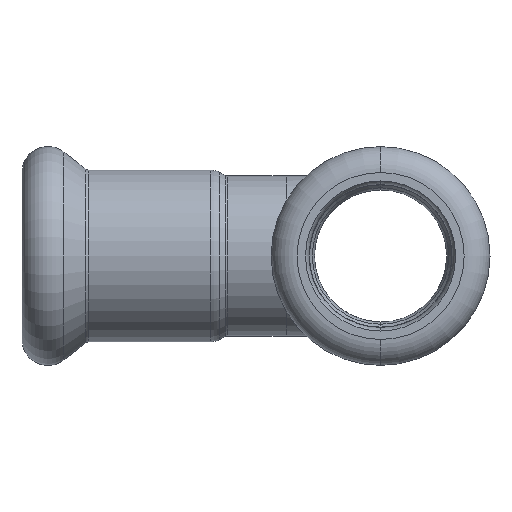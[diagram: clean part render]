
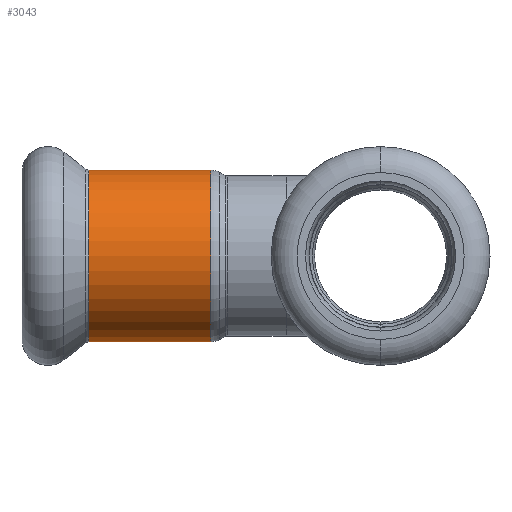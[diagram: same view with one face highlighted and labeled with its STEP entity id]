
A CAD part, left-side view. The second image highlights one B-rep face of the part: STEP entity #3043.
In plain terms, the highlighted cylindrical face has radius 9.1 mm (diameter 18.2 mm), a partial arc.
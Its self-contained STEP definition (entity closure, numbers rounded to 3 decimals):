
#90 = EDGE_CURVE ( 'NONE', #952, #1158, #2496, .T. ) ;
#236 = CYLINDRICAL_SURFACE ( 'NONE', #2011, 9.1 ) ;
#248 = EDGE_LOOP ( 'NONE', ( #2147, #1001, #1781, #1046 ) ) ;
#280 = VECTOR ( 'NONE', #2849, 1000. ) ;
#461 = DIRECTION ( 'NONE',  ( -1., 0., 0. ) ) ;
#506 = CARTESIAN_POINT ( 'NONE',  ( 20.931, 0., -9.1 ) ) ;
#521 = FACE_OUTER_BOUND ( 'NONE', #248, .T. ) ;
#584 = CARTESIAN_POINT ( 'NONE',  ( 8., 0., 9.1 ) ) ;
#713 = CIRCLE ( 'NONE', #1799, 9.1 ) ;
#747 = DIRECTION ( 'NONE',  ( -1., 0., 0. ) ) ;
#764 = EDGE_CURVE ( 'NONE', #1158, #2990, #713, .T. ) ;
#830 = VERTEX_POINT ( 'NONE', #506 ) ;
#924 = VECTOR ( 'NONE', #461, 1000. ) ;
#952 = VERTEX_POINT ( 'NONE', #1091 ) ;
#1001 = ORIENTED_EDGE ( 'NONE', *, *, #1800, .T. ) ;
#1022 = DIRECTION ( 'NONE',  ( 0., 0., 1. ) ) ;
#1046 = ORIENTED_EDGE ( 'NONE', *, *, #90, .F. ) ;
#1091 = CARTESIAN_POINT ( 'NONE',  ( 20.931, 0., 9.1 ) ) ;
#1158 = VERTEX_POINT ( 'NONE', #584 ) ;
#1302 = EDGE_CURVE ( 'NONE', #952, #830, #1607, .T. ) ;
#1328 = CARTESIAN_POINT ( 'NONE',  ( 8., 0., 0. ) ) ;
#1607 = CIRCLE ( 'NONE', #2394, 9.1 ) ;
#1781 = ORIENTED_EDGE ( 'NONE', *, *, #764, .F. ) ;
#1799 = AXIS2_PLACEMENT_3D ( 'NONE', #1328, #1854, #1022 ) ;
#1800 = EDGE_CURVE ( 'NONE', #830, #2990, #2433, .T. ) ;
#1854 = DIRECTION ( 'NONE',  ( -1., 0., 0. ) ) ;
#2011 = AXIS2_PLACEMENT_3D ( 'NONE', #2931, #747, #3457 ) ;
#2077 = CARTESIAN_POINT ( 'NONE',  ( -47.221, 0., 9.1 ) ) ;
#2147 = ORIENTED_EDGE ( 'NONE', *, *, #1302, .T. ) ;
#2298 = CARTESIAN_POINT ( 'NONE',  ( 8., 0., -9.1 ) ) ;
#2300 = CARTESIAN_POINT ( 'NONE',  ( -47.221, 0., -9.1 ) ) ;
#2394 = AXIS2_PLACEMENT_3D ( 'NONE', #3195, #3465, #2898 ) ;
#2433 = LINE ( 'NONE', #2300, #280 ) ;
#2496 = LINE ( 'NONE', #2077, #924 ) ;
#2849 = DIRECTION ( 'NONE',  ( -1., 0., 0. ) ) ;
#2898 = DIRECTION ( 'NONE',  ( 0., 0., 1. ) ) ;
#2931 = CARTESIAN_POINT ( 'NONE',  ( -47.221, 0., 0. ) ) ;
#2990 = VERTEX_POINT ( 'NONE', #2298 ) ;
#3043 = ADVANCED_FACE ( 'NONE', ( #521 ), #236, .T. ) ;
#3195 = CARTESIAN_POINT ( 'NONE',  ( 20.931, 0., 0. ) ) ;
#3457 = DIRECTION ( 'NONE',  ( 0., 0., 1. ) ) ;
#3465 = DIRECTION ( 'NONE',  ( -1., 0., 0. ) ) ;
